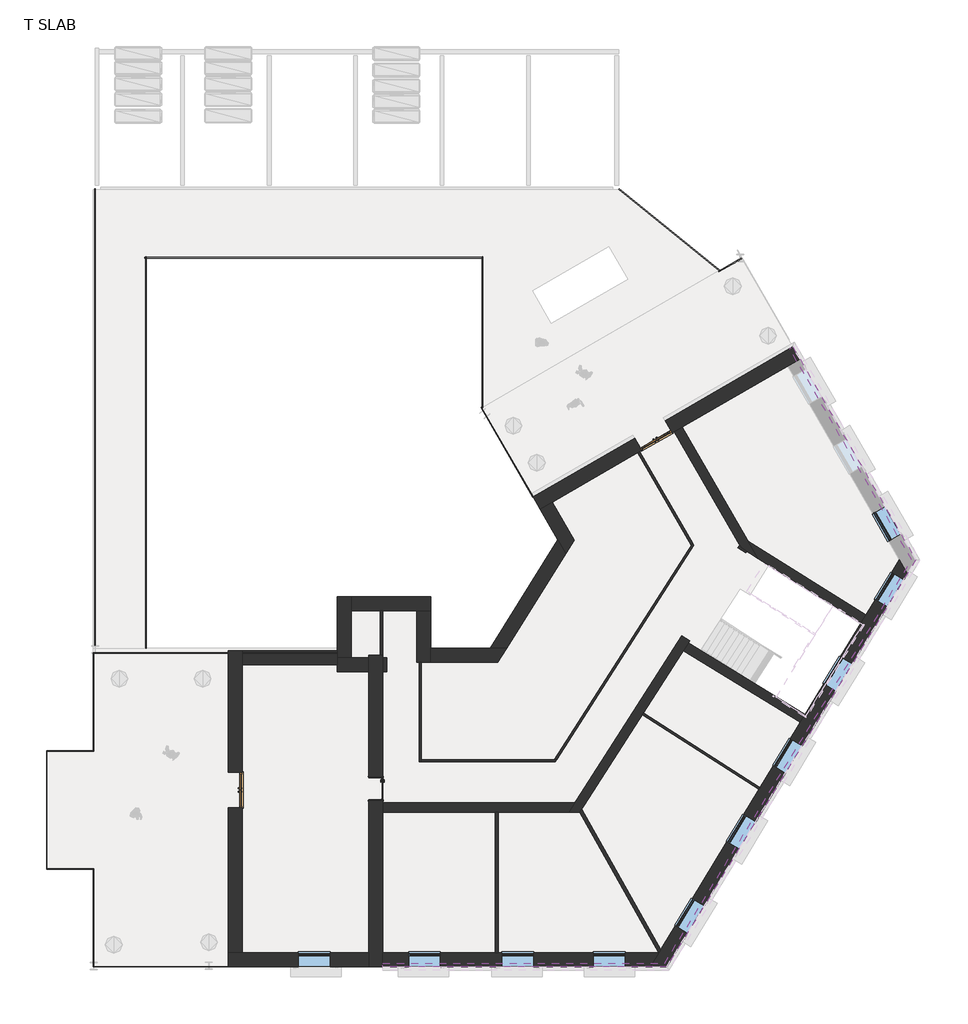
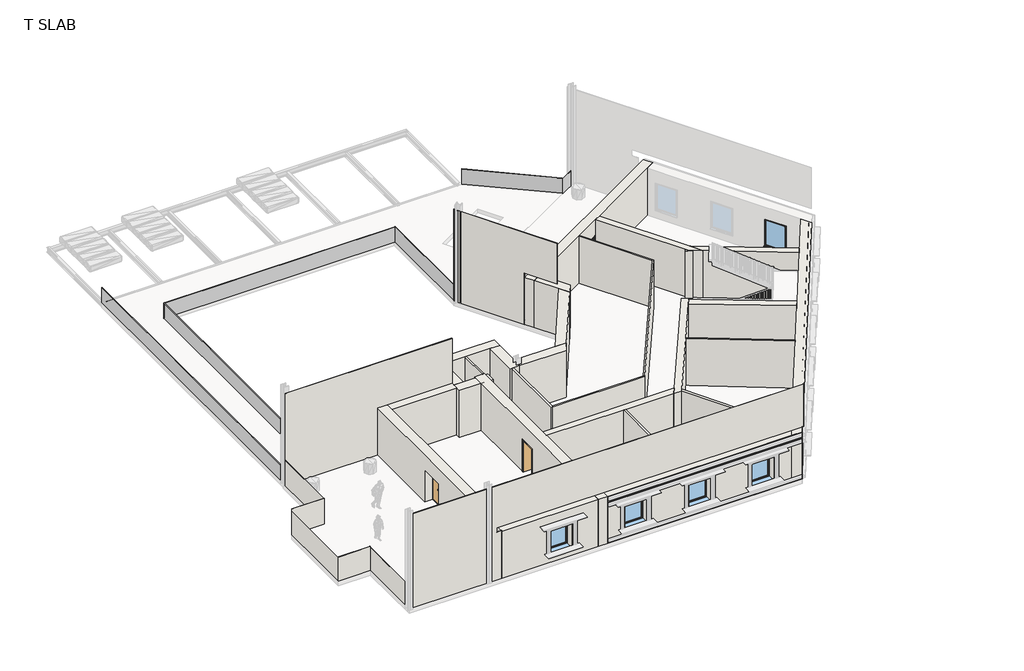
# One storey, part 1 of 3: 35 walls, 10 windows, 6 plates, 3 doors, 2 proxies.
"""IFC4 building model written with IfcOpenShell, lengths in millimetres."""

from ifc_helpers import new_model, si_unit, frame, origin, place, context, project, spatial, polyline, outline, extrude, faceted_brep, transform, mapped, element, save
from components import doors_extdbl_flush_1510x2110mm_71f47a27, doors_intsgl_1010x2110mm_08e46b23, system_panel_glazed_cf5a1381, system_panel_glazed_b8300c30, system_panel_glazed_0d75d7f1, system_panel_glazed_4365cd2d, system_panel_glazed_eda290e2, system_panel_glazed_d710f7e0, windows_sgl_plain_1360x1210mm_ccfeedc9

model = new_model("IFC4")

# Units and contexts
model_context = context("Model", 3, world=origin())
ifc_project = project(units=[si_unit("LENGTHUNIT", "METRE", prefix="MILLI")], contexts=[model_context])

# Site, building, storey
site = spatial("IfcSite", under=ifc_project)
building = spatial("IfcBuilding", under=site)
storey = spatial("IfcBuildingStorey", under=building, Name="T SLAB", Elevation=11500.0)

# Proxies
placement = place(None, origin())
element("IfcBuildingElementProxy", 1, Name="Reveal", ObjectType="Reveal", at=placement, inside=storey, context=model_context, shape_type="SweptSolid", body=[
    extrude(outline(polyline([(21490.4438673, 13358.5838782), (21667.737182, 13356.3028492), (11036.4091885, -4009.9711746), (10951.0160716, -3857.5711746), (21490.4438673, 13358.5838782)])), frame((0.0, 0.0, 11500.0), z_axis=(0.0, 0.0, 1.0), x_axis=(1.0, 0.0, 0.0)), (0.0, 0.0, 1.0), 152.4),
    extrude(outline(polyline([(16285.17951, 22374.3662118), (16417.1617815, 22450.5662118), (21667.737182, 13356.3028492), (21490.4438673, 13358.5838782), (16285.17951, 22374.3662118)])), frame((0.0, 0.0, 11500.0), z_axis=(0.0, 0.0, 1.0), x_axis=(1.0, 0.0, 0.0)), (0.0, 0.0, 1.0), 152.4),
    extrude(outline(polyline([(10951.0160716, -3857.5711746), (11036.4091885, -4009.9711746), (-1076.9484639, -4009.9711746), (-1076.9484639, -3857.5711746), (10951.0160716, -3857.5711746)])), frame((0.0, 0.0, 11500.0), z_axis=(0.0, 0.0, 1.0), x_axis=(1.0, 0.0, 0.0)), (0.0, 0.0, 1.0), 152.4),
])
element("IfcBuildingElementProxy", 2, Name="Reveal", ObjectType="Reveal", at=placement, inside=storey, context=model_context, shape_type="SweptSolid", body=[
    extrude(outline(polyline([(10951.0160716, -3857.5711746), (11036.4091885, -4009.9711746), (-1076.9484639, -4009.9711746), (-1076.9484639, -3857.5711746), (10951.0160716, -3857.5711746)])), frame((0.0, 0.0, 14200.0), z_axis=(0.0, 0.0, 1.0), x_axis=(1.0, 0.0, 0.0)), (0.0, 0.0, 1.0), 152.4),
    extrude(outline(polyline([(21490.4438673, 13358.5838782), (21667.737182, 13356.3028492), (11036.4091885, -4009.9711746), (10951.0160716, -3857.5711746), (21490.4438673, 13358.5838782)])), frame((0.0, 0.0, 14200.0), z_axis=(0.0, 0.0, 1.0), x_axis=(1.0, 0.0, 0.0)), (0.0, 0.0, 1.0), 152.4),
    extrude(outline(polyline([(16285.17951, 22374.3662118), (16417.1617815, 22450.5662118), (21667.737182, 13356.3028492), (21490.4438673, 13358.5838782), (16285.17951, 22374.3662118)])), frame((0.0, 0.0, 14200.0), z_axis=(0.0, 0.0, 1.0), x_axis=(1.0, 0.0, 0.0)), (0.0, 0.0, 1.0), 152.4),
])

# Doors
doors_extdbl_flush_1510x2110mm_shape = doors_extdbl_flush_1510x2110mm_71f47a27(model_context)
element("IfcDoor", 3, ObjectType="Doors_ExtDbl_Flush : 1510x2110mm", at=placement, inside=storey, context=model_context, shape_type="MappedRepresentation", body=[
    mapped(doors_extdbl_flush_1510x2110mm_shape, transform((-7376.9484639, 3535.0288254, 11500.0), x_axis=(0.0, -1.0, 0.0), y_axis=(1.0, 0.0, 0.0), z_axis=(0.0, 0.0, 1.0))),
])
element("IfcDoor", 4, ObjectType="Doors_ExtDbl_Flush : 1510x2110mm", at=placement, inside=storey, context=model_context, shape_type="MappedRepresentation", body=[
    mapped(doors_extdbl_flush_1510x2110mm_shape, transform((10465.4248506, 18667.9191311, 11500.0), x_axis=(-0.8660254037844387, -0.49999999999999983, 0.0), y_axis=(0.49999999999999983, -0.8660254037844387, 0.0), z_axis=(0.0, 0.0, 1.0))),
])
doors_intsgl_1010x2110mm_shape = doors_intsgl_1010x2110mm_08e46b23(model_context)
element("IfcDoor", 5, ObjectType="Doors_IntSgl : 1010x2110mm", at=placement, inside=storey, context=model_context, shape_type="MappedRepresentation", body=[
    mapped(doors_intsgl_1010x2110mm_shape, transform((-1376.9484639, 3595.0288254, 11500.0), x_axis=(0.0, -1.0, 0.0), y_axis=(1.0, 0.0, 0.0), z_axis=(0.0, 0.0, 1.0))),
])

# Plates
system_panel_glazed_shape = system_panel_glazed_cf5a1381(model_context)
element("IfcPlate", 6, ObjectType="System Panel : Glazed", at=placement, inside=storey, context=model_context, shape_type="MappedRepresentation", body=[
    mapped(system_panel_glazed_shape, transform((3132.0366131, 23076.6230883, 11500.0), x_axis=(0.0, -1.0, 0.0), y_axis=(1.0, 0.0, 0.0), z_axis=(0.0, 0.0, 1.0))),
])
system_panel_glazed_2_shape = system_panel_glazed_b8300c30(model_context)
element("IfcPlate", 7, ObjectType="System Panel : Glazed", at=placement, inside=storey, context=model_context, shape_type="MappedRepresentation", body=[
    mapped(system_panel_glazed_2_shape, transform((-4049.9559254, 26292.1681881, 11500.0), x_axis=(-1.0, 0.0, 0.0), y_axis=(0.0, -1.0, 0.0), z_axis=(0.0, 0.0, 1.0))),
])
system_panel_glazed_3_shape = system_panel_glazed_0d75d7f1(model_context)
element("IfcPlate", 8, ObjectType="System Panel : Glazed", at=placement, inside=storey, context=model_context, shape_type="MappedRepresentation", body=[
    mapped(system_panel_glazed_3_shape, transform((-11231.9484639, 17941.0985067, 11500.0), x_axis=(0.0, -1.0, 0.0), y_axis=(1.0, 0.0, 0.0), z_axis=(0.0, 0.0, 1.0))),
])
system_panel_glazed_4_shape = system_panel_glazed_4365cd2d(model_context)
element("IfcPlate", 9, ObjectType="System Panel : Glazed", at=placement, inside=storey, context=model_context, shape_type="MappedRepresentation", body=[
    mapped(system_panel_glazed_4_shape, transform((-13331.6874983, 19460.0288254, 11500.0), x_axis=(0.0, 1.0, 0.0), y_axis=(-1.0, 0.0, 0.0), z_axis=(0.0, 0.0, 1.0))),
])
system_panel_glazed_5_shape = system_panel_glazed_eda290e2(model_context)
element("IfcPlate", 10, ObjectType="System Panel : Glazed", at=placement, inside=storey, context=model_context, shape_type="MappedRepresentation", body=[
    mapped(system_panel_glazed_5_shape, transform((11104.0604049, 27426.4199896, 11500.0), x_axis=(0.7768471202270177, -0.6296892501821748, 0.0), y_axis=(0.6296892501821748, 0.7768471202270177, 0.0), z_axis=(0.0, 0.0, 1.0))),
])
system_panel_glazed_6_shape = system_panel_glazed_d710f7e0(model_context)
element("IfcPlate", 11, ObjectType="System Panel : Glazed", at=placement, inside=storey, context=model_context, shape_type="MappedRepresentation", body=[
    mapped(system_panel_glazed_6_shape, transform((13732.3956065, 25981.1981068, 11500.0), x_axis=(-0.8660254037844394, -0.4999999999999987, 0.0), y_axis=(0.4999999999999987, -0.8660254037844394, 0.0), z_axis=(0.0, 0.0, 1.0))),
])

# Walls
element("IfcWall", 12, ObjectType="Wall-Partn_12P-70MStd-12P", at=placement, inside=storey, context=model_context, shape_type="SweptSolid", body=[
    extrude(outline(polyline([(10041.4057042, 6826.6614941), (15018.6892809, 3644.2551292), (14969.0788662, 3563.216518), (9990.2304607, 6746.6234129), (10041.4057042, 6826.6614941)])), frame((0.0, 0.0, 11500.0), z_axis=(0.0, 0.0, 1.0), x_axis=(1.0, 0.0, 0.0)), (0.0, 0.0, 1.0), 3100.0),
])
element("IfcWall", 13, ObjectType="Wall-Partn_12P-70MStd-12P", at=placement, inside=storey, context=model_context, shape_type="SweptSolid", body=[
    extrude(outline(polyline([(-1187.280878, 9290.0288254), (-1187.280878, 11190.0288254), (-1092.280878, 11190.0288254), (-1092.280878, 9290.0288254), (-1187.280878, 9290.0288254)])), frame((0.0, 0.0, 11500.0), z_axis=(0.0, 0.0, 1.0), x_axis=(1.0, 0.0, 0.0)), (0.0, 0.0, 1.0), 3100.0),
])
element("IfcWall", 14, ObjectType="Wall-Partn_12P-70MStd-12P", at=placement, inside=storey, context=model_context, shape_type="Brep", body=[
    faceted_brep([(470.5515361, 8990.0288254, 11500.0), (470.5515361, 4742.5288254, 11500.0), (470.5515361, 4742.5288254, 14600.0), (470.5515361, 8990.0288254, 14600.0), (565.5515361, 8990.0288254, 11500.0), (565.5515361, 8990.0288254, 14600.0), (565.5515361, 4837.5288254, 14600.0), (565.5515361, 4742.5288254, 14600.0), (565.5515361, 4742.5288254, 11500.0), (565.5515361, 4837.5288254, 11500.0)], [[[0, 1, 2, 3]], [[4, 5, 6, 7, 8, 9]], [[1, 0, 4, 9, 8]], [[0, 3, 5, 4]], [[2, 1, 8, 7]], [[3, 2, 7, 6, 5]]]),
])
element("IfcWall", 15, ObjectType="Wall-Partn_12P-70MStd-12P", at=placement, inside=storey, context=model_context, shape_type="Brep", body=[
    faceted_brep([(565.5515361, 4742.5288254, 11500.0), (6280.1214861, 4742.5288254, 11500.0), (6280.1214861, 4742.5288254, 14600.0), (565.5515361, 4742.5288254, 14600.0), (565.5515361, 4837.5288254, 11500.0), (565.5515361, 4837.5288254, 14600.0), (6228.1043488, 4837.5288254, 14600.0), (6340.8631738, 4837.5288254, 14600.0), (6340.8631738, 4837.5288254, 11500.0), (6228.1043488, 4837.5288254, 11500.0)], [[[0, 1, 2, 3]], [[4, 5, 6, 7, 8, 9]], [[1, 0, 4, 9, 8]], [[0, 3, 5, 4]], [[2, 1, 8, 7]], [[3, 2, 7, 6, 5]]]),
])
element("IfcWall", 16, ObjectType="Wall-Partn_12P-70MStd-12P", at=placement, inside=storey, context=model_context, shape_type="Brep", body=[
    faceted_brep([(6340.8631738, 4837.5288254, 11500.0), (12191.443507, 13987.8365071, 11500.0), (12191.443507, 13987.8365071, 14600.0), (6340.8631738, 4837.5288254, 14600.0), (6228.1043488, 4837.5288254, 11500.0), (6228.1043488, 4837.5288254, 14600.0), (12080.2938847, 13990.3533002, 14600.0), (12137.938627, 14080.5096776, 14600.0), (12137.938627, 14080.5096776, 11500.0), (12080.2938847, 13990.3533002, 11500.0)], [[[0, 1, 2, 3]], [[4, 5, 6, 7, 8, 9]], [[1, 0, 4, 9, 8]], [[2, 1, 8, 7]], [[0, 3, 5, 4]], [[3, 2, 7, 6, 5]]]),
])
element("IfcWall", 17, ObjectType="Wall-Partn_12P-70MStd-12P", at=placement, inside=storey, context=model_context, shape_type="SweptSolid", body=[
    extrude(outline(polyline([(9883.4036208, 17985.4788559), (12137.938627, 14080.5096776), (12080.2938847, 13990.3533002), (9801.1312074, 17937.9788559), (9883.4036208, 17985.4788559)])), frame((0.0, 0.0, 11500.0), z_axis=(0.0, 0.0, 1.0), x_axis=(1.0, 0.0, 0.0)), (0.0, 0.0, 1.0), 3100.0),
])
element("IfcWall", 18, ObjectType="Wall-Partn_12P-70MStd-12P 2", at=placement, inside=storey, context=model_context, shape_type="Brep", body=[
    faceted_brep([(11146.8645795, -3994.9711746, 14928.4469552), (-7970.6571402, -3994.9711746, 14928.4469552), (-7970.6571402, -3994.9711746, 14648.4469552), (-7676.9484639, -3994.9711746, 14648.4469552), (-7676.9484639, -3994.9711746, 11500.0), (-13416.6874983, -3994.9711746, 11500.0), (-13431.6874983, -3994.9711746, 11500.0), (-13431.6874983, -3994.9711746, 13007.7183075), (-13431.6874983, -3994.9711746, 17706.8), (11129.3428598, -3994.9711746, 17706.8), (11146.8645795, -3994.9711746, 17706.8), (11146.8645795, -3994.9711746, 15000.0), (11137.8086058, -4009.9711746, 14928.4469552), (11137.8086058, -4009.9711746, 17706.8), (-13431.6874983, -4009.9711746, 17706.8), (-13431.6874983, -4009.9711746, 11500.0), (-7676.9484639, -4009.9711746, 11500.0), (-7676.9484639, -4009.9711746, 14600.0), (-7676.9484639, -4009.9711746, 14648.4469552), (-7970.6571402, -4009.9711746, 14648.4469552), (-7970.6571402, -4009.9711746, 14928.4469552)], [[[0, 1, 2, 3, 4, 5, 6, 7, 8, 9, 10, 11]], [[12, 13, 14, 15, 16, 17, 18, 19, 20]], [[8, 7, 6, 15, 14]], [[6, 5, 4, 16, 15]], [[10, 9, 8, 14, 13]], [[1, 0, 12, 20]], [[2, 1, 20, 19]], [[3, 2, 19, 18]], [[4, 3, 18, 17, 16]], [[0, 11, 10, 13, 12]]]),
])
element("IfcWall", 19, ObjectType="Wall-Partn_12P-70MStd-12P 2", at=placement, inside=storey, context=model_context, shape_type="Brep", body=[
    faceted_brep([(-13416.6874983, -3994.9711746, 11500.0), (-13416.6874983, 180.5548037, 11500.0), (-13416.6874983, 180.5548037, 13007.7183075), (-13416.6874983, -3994.9711746, 13007.7183075), (-13431.6874983, -3994.9711746, 11500.0), (-13431.6874983, -3994.9711746, 13007.7183075), (-13431.6874983, 180.5548037, 13007.7183075), (-13431.6874983, 180.5548037, 11500.0), (-13431.6874983, 165.5548037, 11500.0)], [[[0, 1, 2, 3]], [[4, 5, 6, 7, 8]], [[1, 0, 4, 8, 7]], [[3, 2, 6, 5]], [[0, 3, 5, 4]], [[2, 1, 7, 6]]]),
])
element("IfcWall", 20, ObjectType="Wall-Partn_12P-70MStd-12P 2", at=placement, inside=storey, context=model_context, shape_type="Brep", body=[
    faceted_brep([(-13431.6874983, 180.5548037, 11500.0), (-15416.6874983, 180.5548037, 11500.0), (-15431.6874983, 180.5548037, 11500.0), (-15431.6874983, 180.5548037, 13028.4738073), (-15431.6874983, 180.5548037, 13084.9744432), (-13431.6874983, 180.5548037, 13084.9744432), (-13431.6874983, 180.5548037, 13007.7183075), (-13431.6874983, 165.5548037, 11500.0), (-13431.6874983, 165.5548037, 13084.9744432), (-15431.6874983, 165.5548037, 13084.9744432), (-15431.6874983, 165.5548037, 11500.0)], [[[0, 1, 2, 3, 4, 5, 6]], [[7, 8, 9, 10]], [[2, 1, 0, 7, 10]], [[5, 4, 9, 8]], [[0, 6, 5, 8, 7]], [[4, 3, 2, 10, 9]]]),
])
element("IfcWall", 21, ObjectType="Wall-Partn_12P-70MStd-12P 2", at=placement, inside=storey, context=model_context, shape_type="Brep", body=[
    faceted_brep([(-15416.6874983, 180.5548037, 11500.0), (-15416.6874983, 5190.5548037, 11500.0), (-15416.6874983, 5205.5548037, 11500.0), (-15416.6874983, 5205.5548037, 13028.4738073), (-15416.6874983, 180.5548037, 13028.4738073), (-15431.6874983, 180.5548037, 11500.0), (-15431.6874983, 180.5548037, 13028.4738073), (-15431.6874983, 5205.5548037, 13028.4738073), (-15431.6874983, 5205.5548037, 11500.0)], [[[0, 1, 2, 3, 4]], [[5, 6, 7, 8]], [[2, 1, 0, 5, 8]], [[4, 3, 7, 6]], [[0, 4, 6, 5]], [[3, 2, 8, 7]]]),
])
element("IfcWall", 22, ObjectType="Wall-Partn_12P-70MStd-12P 2", at=placement, inside=storey, context=model_context, shape_type="Brep", body=[
    faceted_brep([(-15416.6874983, 5190.5548037, 11500.0), (-13416.6874983, 5190.5548037, 11500.0), (-13416.6874983, 5190.5548037, 13191.4676723), (-15416.6874983, 5190.5548037, 13191.4676723), (-15416.6874983, 5205.5548037, 11500.0), (-15416.6874983, 5205.5548037, 13028.4738073), (-15416.6874983, 5205.5548037, 13191.4676723), (-13416.6874983, 5205.5548037, 13191.4676723), (-13416.6874983, 5205.5548037, 13187.9113128), (-13416.6874983, 5205.5548037, 11500.0), (-13431.6874983, 5205.5548037, 11500.0)], [[[0, 1, 2, 3]], [[4, 5, 6, 7, 8, 9, 10]], [[1, 0, 4, 10, 9]], [[3, 2, 7, 6]], [[0, 3, 6, 5, 4]], [[2, 1, 9, 8, 7]]]),
])
element("IfcWall", 23, ObjectType="Wall-Partn_12P-70MStd-12P 2", at=placement, inside=storey, context=model_context, shape_type="Brep", body=[
    faceted_brep([(-13416.6874983, 5205.5548037, 11500.0), (-13416.6874983, 9375.0288254, 11500.0), (-13416.6874983, 9390.0288254, 11500.0), (-13416.6874983, 9390.0288254, 13187.9113128), (-13416.6874983, 5205.5548037, 13187.9113128), (-13431.6874983, 5205.5548037, 11500.0), (-13431.6874983, 5205.5548037, 13187.9113128), (-13431.6874983, 9390.0288254, 13187.9113128), (-13431.6874983, 9390.0288254, 11500.0)], [[[0, 1, 2, 3, 4]], [[5, 6, 7, 8]], [[2, 1, 0, 5, 8]], [[4, 3, 7, 6]], [[0, 4, 6, 5]], [[3, 2, 8, 7]]]),
])
element("IfcWall", 24, ObjectType="Wall-Partn_12P-70MStd-12P 2", at=placement, inside=storey, context=model_context, shape_type="Brep", body=[
    faceted_brep([(-13416.6874983, 9375.0288254, 11500.0), (-3031.9484639, 9375.0288254, 11500.0), (-3031.9484639, 9375.0288254, 17560.0), (-13416.6874983, 9375.0288254, 17560.0), (-13416.6874983, 9390.0288254, 11500.0), (-13416.6874983, 9390.0288254, 13187.9113128), (-13416.6874983, 9390.0288254, 17560.0), (-3031.9484639, 9390.0288254, 17560.0), (-3031.9484639, 9390.0288254, 11500.0)], [[[0, 1, 2, 3]], [[4, 5, 6, 7, 8]], [[1, 0, 4, 8]], [[0, 3, 6, 5, 4]], [[2, 1, 8, 7]], [[3, 2, 7, 6]]]),
])
element("IfcWall", 25, ObjectType="Wall-Partn_12P-70MStd-12P 2", at=placement, inside=storey, context=model_context, shape_type="Brep", body=[
    faceted_brep([(3115.296232, 19860.073179, 11500.0), (5319.046232, 16043.0662118, 11500.0), (5319.046232, 16043.0662118, 14880.0), (6346.1372879, 14264.092319, 14880.0), (6346.1372879, 14264.092319, 15000.0), (6346.1372879, 14264.092319, 17560.0), (6337.5621324, 14278.944924, 17560.0), (3251.4268808, 19624.2879788, 17560.0), (3115.296232, 19860.073179, 17560.0), (3128.2866131, 19867.573179, 11500.0), (3128.2866131, 19867.573179, 17560.0), (3264.2408356, 19632.0935581, 17560.0), (6354.9703511, 14278.7930048, 17560.0), (6354.9703511, 14278.7930048, 14880.0), (5332.0366131, 16050.5662118, 14880.0), (5332.0366131, 16050.5662118, 11500.0)], [[[0, 1, 2, 3, 4, 5, 6, 7, 8]], [[9, 10, 11, 12, 13, 14, 15]], [[1, 0, 9, 15]], [[0, 8, 10, 9]], [[2, 1, 15, 14]], [[3, 2, 14, 13]], [[5, 4, 3, 13, 12]], [[8, 7, 11, 10]], [[7, 6, 5, 12, 11]]]),
])
element("IfcWall", 26, ObjectType="Wall-Int_12P-100Blk-12P", at=placement, inside=storey, context=model_context, shape_type="SweptSolid", body=[
    extrude(outline(polyline([(3848.0515361, 2590.0288254), (3848.0515361, -3409.9711746), (3723.0515361, -3409.9711746), (3723.0515361, 2590.0288254), (3848.0515361, 2590.0288254)])), frame((0.0, 0.0, 11500.0), z_axis=(0.0, 0.0, 1.0), x_axis=(1.0, 0.0, 0.0)), (0.0, 0.0, 1.0), 3100.0),
])
element("IfcWall", 27, ObjectType="Wall-Int_12P-100Blk-12P", at=placement, inside=storey, context=model_context, shape_type="SweptSolid", body=[
    extrude(outline(polyline([(7408.8957218, 2709.4158634), (10774.9967974, -3287.8164413), (10700.2158148, -3409.9711746), (7332.5612989, 2590.0288254), (7408.8957218, 2709.4158634)])), frame((0.0, 0.0, 11500.0), z_axis=(0.0, 0.0, 1.0), x_axis=(1.0, 0.0, 0.0)), (0.0, 0.0, 1.0), 3100.0),
])
element("IfcWall", 28, ObjectType="ug wall", at=placement, inside=storey, context=model_context, shape_type="SweptSolid", body=[
    extrude(outline(polyline([(9290.0288254, 14600.0), (9290.0288254, 11500.0), (4100.0288254, 11500.0), (4100.0288254, 13610.0), (3090.0288254, 13610.0), (3090.0288254, 11500.0), (-4009.9711746, 11500.0), (-4009.9711746, 14600.0), (9290.0288254, 14600.0)])), frame((-1676.9484639, 0.0, 0.0), z_axis=(1.0, 0.0, 0.0), x_axis=(0.0, 1.0, 0.0)), (0.0, 0.0, 1.0), 600.0),
])
element("IfcWall", 29, ObjectType="ug wall", at=placement, inside=storey, context=model_context, shape_type="Brep", body=[
    faceted_brep([(-911.9484639, 9190.0288254, 11500.0), (-2431.9484639, 9190.0288254, 11500.0), (-3031.9484639, 9190.0288254, 11500.0), (-3031.9484639, 9190.0288254, 14600.0), (-2431.9484639, 9190.0288254, 14600.0), (-911.9484639, 9190.0288254, 14600.0), (-911.9484639, 8590.0288254, 11500.0), (-911.9484639, 8590.0288254, 14600.0), (-3031.9484639, 8590.0288254, 14600.0), (-3031.9484639, 8590.0288254, 11500.0)], [[[0, 1, 2, 3, 4, 5]], [[6, 7, 8, 9]], [[2, 1, 0, 6, 9]], [[0, 5, 7, 6]], [[3, 2, 9, 8]], [[5, 4, 3, 8, 7]]]),
])
element("IfcWall", 30, ObjectType="ug wall", at=placement, inside=storey, context=model_context, shape_type="Brep", body=[
    faceted_brep([(-2431.9484639, 9190.0288254, 11500.0), (-2431.9484639, 11190.0288254, 11500.0), (-2431.9484639, 11790.0288254, 11500.0), (-2431.9484639, 11790.0288254, 14600.0), (-2431.9484639, 11190.0288254, 14600.0), (-2431.9484639, 9190.0288254, 14600.0), (-3031.9484639, 9190.0288254, 11500.0), (-3031.9484639, 9190.0288254, 14600.0), (-3031.9484639, 11790.0288254, 14600.0), (-3031.9484639, 11790.0288254, 11500.0)], [[[0, 1, 2, 3, 4, 5]], [[6, 7, 8, 9]], [[2, 1, 0, 6, 9]], [[0, 5, 7, 6]], [[3, 2, 9, 8]], [[5, 4, 3, 8, 7]]]),
])
element("IfcWall", 31, ObjectType="ug wall", at=placement, inside=storey, context=model_context, shape_type="Brep", body=[
    faceted_brep([(-2431.9484639, 11190.0288254, 11500.0), (368.0515361, 11190.0288254, 11500.0), (968.0515361, 11190.0288254, 11500.0), (968.0515361, 11190.0288254, 14600.0), (368.0515361, 11190.0288254, 14600.0), (-2431.9484639, 11190.0288254, 14600.0), (-2431.9484639, 11790.0288254, 11500.0), (-2431.9484639, 11790.0288254, 14600.0), (968.0515361, 11790.0288254, 14600.0), (968.0515361, 11790.0288254, 11500.0)], [[[0, 1, 2, 3, 4, 5]], [[6, 7, 8, 9]], [[2, 1, 0, 6, 9]], [[0, 5, 7, 6]], [[3, 2, 9, 8]], [[5, 4, 3, 8, 7]]]),
])
element("IfcWall", 32, ObjectType="ug wall", at=placement, inside=storey, context=model_context, shape_type="Brep", body=[
    faceted_brep([(368.0515361, 11190.0288254, 11500.0), (368.0515361, 8990.0288254, 11500.0), (368.0515361, 8990.0288254, 14600.0), (368.0515361, 11190.0288254, 14600.0), (968.0515361, 11190.0288254, 11500.0), (968.0515361, 11190.0288254, 14600.0), (968.0515361, 9590.0288254, 14600.0), (968.0515361, 8990.0288254, 14600.0), (968.0515361, 8990.0288254, 11500.0), (968.0515361, 9590.0288254, 11500.0)], [[[0, 1, 2, 3]], [[4, 5, 6, 7, 8, 9]], [[1, 0, 4, 9, 8]], [[0, 3, 5, 4]], [[2, 1, 8, 7]], [[3, 2, 7, 6, 5]]]),
])
element("IfcWall", 33, ObjectType="ug wall", at=placement, inside=storey, context=model_context, shape_type="Brep", body=[
    faceted_brep([(968.0515361, 8990.0288254, 11500.0), (3834.6052171, 8990.0288254, 11500.0), (3834.6052171, 8990.0288254, 14600.0), (968.0515361, 8990.0288254, 14600.0), (968.0515361, 9590.0288254, 11500.0), (968.0515361, 9590.0288254, 14600.0), (3502.0197862, 9590.0288254, 14600.0), (4209.5268283, 9590.0288254, 14600.0), (4209.5268283, 9590.0288254, 11500.0), (3502.0197862, 9590.0288254, 11500.0)], [[[0, 1, 2, 3]], [[4, 5, 6, 7, 8, 9]], [[1, 0, 4, 9, 8]], [[0, 3, 5, 4]], [[2, 1, 8, 7]], [[3, 2, 7, 6, 5]]]),
])
element("IfcWall", 34, ObjectType="ug wall", at=placement, inside=storey, context=model_context, shape_type="Brep", body=[
    faceted_brep([(5332.0366131, 16050.5662118, 14600.0), (16417.1617815, 22450.5662118, 14600.0), (16417.1617815, 22450.5662118, 14552.4), (16417.1617815, 22450.5662118, 14400.0), (16417.1617815, 22450.5662118, 14352.4), (16285.17951, 22374.3662118, 14352.4), (16285.17951, 22374.3662118, 14200.0), (16417.1617815, 22450.5662118, 14200.0), (16417.1617815, 22450.5662118, 14152.4), (16417.1617815, 22450.5662118, 14000.0), (16417.1617815, 22450.5662118, 11804.8), (16417.1617815, 22450.5662118, 11652.4), (16285.17951, 22374.3662118, 11652.4), (16285.17951, 22374.3662118, 11500.0), (10969.2740305, 19305.2267522, 11500.0), (10969.2740305, 19305.2267522, 11652.4), (10969.2740305, 19305.2267522, 11804.8), (10969.2740305, 19305.2267522, 13610.0), (9661.5756708, 18550.2267522, 13610.0), (9661.5756708, 18550.2267522, 11804.8), (9661.5756708, 18550.2267522, 11652.4), (9661.5756708, 18550.2267522, 11500.0), (5332.0366131, 16050.5662118, 11500.0), (5332.0366131, 16050.5662118, 11652.4), (5332.0366131, 16050.5662118, 11804.8), (5632.0366131, 15530.9509695, 14600.0), (5632.0366131, 15530.9509695, 11500.0), (6151.6518554, 15830.9509695, 11500.0), (9961.5756708, 18030.61151, 11500.0), (9961.5756708, 18030.61151, 13610.0), (11269.2740305, 18785.61151, 13610.0), (11269.2740305, 18785.61151, 11500.0), (11347.4460805, 18830.7441641, 11500.0), (11693.856242, 19030.7441641, 11500.0), (16197.5465393, 21630.9509695, 11500.0), (16585.17951, 21854.7509695, 11500.0), (16585.17951, 21854.7509695, 11652.4), (16717.1617815, 21930.9509695, 11652.4), (16717.1617815, 21930.9509695, 11804.8), (16717.1617815, 21930.9509695, 14000.0), (16717.1617815, 21930.9509695, 14152.4), (16717.1617815, 21930.9509695, 14200.0), (16585.17951, 21854.7509695, 14200.0), (16585.17951, 21854.7509695, 14352.4), (16717.1617815, 21930.9509695, 14352.4), (16717.1617815, 21930.9509695, 14400.0), (16717.1617815, 21930.9509695, 14552.4), (16717.1617815, 21930.9509695, 14600.0), (16197.5465393, 21630.9509695, 14600.0), (11693.856242, 19030.7441641, 14600.0), (11347.4460805, 18830.7441641, 14600.0), (6151.6518554, 15830.9509695, 14600.0)], [[[0, 1, 2, 3, 4, 5, 6, 7, 8, 9, 10, 11, 12, 13, 14, 15, 16, 17, 18, 19, 20, 21, 22, 23, 24]], [[25, 26, 27, 28, 29, 30, 31, 32, 33, 34, 35, 36, 37, 38, 39, 40, 41, 42, 43, 44, 45, 46, 47, 48, 49, 50, 51]], [[26, 22, 21, 28, 27]], [[13, 35, 34, 33, 32, 31, 14]], [[22, 26, 25, 0, 24, 23]], [[1, 47, 46, 45, 44, 4, 3, 2]], [[37, 11, 10, 9, 8, 7, 41, 40, 39, 38]], [[1, 0, 25, 51, 50, 49, 48, 47]], [[12, 36, 35, 13]], [[36, 12, 11, 37]], [[6, 42, 41, 7]], [[42, 6, 5, 43]], [[43, 5, 4, 44]], [[31, 30, 17, 16, 15, 14]], [[29, 28, 21, 20, 19, 18]], [[30, 29, 18, 17]]]),
])
element("IfcWall", 35, ObjectType="ug wall", at=placement, inside=storey, context=model_context, shape_type="Brep", body=[
    faceted_brep([(5632.0366131, 15530.9509695, 11500.0), (6391.9075202, 14214.8159512, 11500.0), (6731.6785354, 13626.3152899, 11500.0), (6731.6785354, 13626.3152899, 14600.0), (6391.9075202, 14214.8159512, 14600.0), (5632.0366131, 15530.9509695, 14600.0), (6151.6518554, 15830.9509695, 11500.0), (6151.6518554, 15830.9509695, 14600.0), (7091.7809482, 14202.5996151, 14600.0), (7091.7809482, 14202.5996151, 11500.0)], [[[0, 1, 2, 3, 4, 5]], [[6, 7, 8, 9]], [[2, 1, 0, 6, 9]], [[0, 5, 7, 6]], [[3, 2, 9, 8]], [[5, 4, 3, 8, 7]]]),
])
element("IfcWall", 36, ObjectType="ug wall", at=placement, inside=storey, context=model_context, shape_type="SweptSolid", body=[
    extrude(outline(polyline([(3502.0197862, 9590.0288254), (6391.9075202, 14214.8159512), (6731.6785354, 13626.3152899), (4209.5268283, 9590.0288254), (3502.0197862, 9590.0288254)])), frame((0.0, 0.0, 11500.0), z_axis=(0.0, 0.0, 1.0), x_axis=(1.0, 0.0, 0.0)), (0.0, 0.0, 1.0), 3100.0),
])
element("IfcWall", 37, ObjectType="ug wall", at=placement, inside=storey, context=model_context, shape_type="Brep", body=[
    faceted_brep([(20969.7320058, 13365.2832783, 11500.0), (16934.319402, 6773.4368863, 11500.0), (16725.4733567, 6432.2868762, 11500.0), (15018.6892809, 3644.2551292, 11500.0), (14969.0788662, 3563.216518, 11500.0), (10774.9967974, -3287.8164413, 11500.0), (10700.2158148, -3409.9711746, 11500.0), (10426.202955, -3857.5711746, 11500.0), (10426.202955, -3857.5711746, 11652.4), (10332.9063513, -4009.9711746, 11652.4), (10332.9063513, -4009.9711746, 11804.8), (10332.9063513, -4009.9711746, 14000.0), (10332.9063513, -4009.9711746, 14152.4), (10332.9063513, -4009.9711746, 14200.0), (10426.202955, -3857.5711746, 14200.0), (10426.202955, -3857.5711746, 14352.4), (10332.9063513, -4009.9711746, 14352.4), (10332.9063513, -4009.9711746, 14400.0), (10332.9063513, -4009.9711746, 14552.4), (10332.9063513, -4009.9711746, 14600.0), (10700.2158148, -3409.9711746, 14600.0), (10774.9967974, -3287.8164413, 14600.0), (14969.0788662, 3563.216518, 14600.0), (15018.6892809, 3644.2551292, 14600.0), (16725.4733567, 6432.2868762, 14600.0), (16934.319402, 6773.4368863, 14600.0), (19323.1495631, 10675.5908975, 14600.0), (20969.7320058, 13365.2832783, 14600.0), (13605.8229965, 1336.3380874, 13800.0), (13605.8229965, 1336.3380874, 12000.0), (14315.8995506, 2496.2481215, 12000.0), (14315.8995506, 2496.2481215, 13800.0), (11407.7854581, -2254.1561793, 13800.0), (11407.7854581, -2254.1561793, 12000.0), (12117.8620121, -1094.2461451, 12000.0), (12117.8620121, -1094.2461451, 13800.0), (19928.4440394, 11664.3394101, 13800.0), (19928.4440394, 11664.3394101, 12000.0), (20638.5205935, 12824.2494443, 12000.0), (20638.5205935, 12824.2494443, 13800.0), (15589.860427, 4577.2631828, 13800.0), (15589.860427, 4577.2631828, 12000.0), (16299.9369811, 5737.1732169, 12000.0), (16299.9369811, 5737.1732169, 13800.0), (17730.5323916, 8074.0507858, 13800.0), (17730.5323916, 8074.0507858, 12000.0), (18440.6089456, 9233.9608199, 12000.0), (18440.6089456, 9233.9608199, 13800.0), (21311.1833586, 12773.8721871, 14600.0), (11036.4091885, -4009.9711746, 14600.0), (11036.4091885, -4009.9711746, 14552.4), (11036.4091885, -4009.9711746, 14400.0), (11036.4091885, -4009.9711746, 14352.4), (21311.1833586, 12773.8721871, 14352.4), (21311.1833586, 12773.8721871, 14400.0), (21311.1833586, 12773.8721871, 14552.4), (11036.4091885, -4009.9711746, 11652.4), (21311.1833586, 12773.8721871, 11652.4), (21311.1833586, 12773.8721871, 11804.8), (21311.1833586, 12773.8721871, 14000.0), (21311.1833586, 12773.8721871, 14152.4), (21311.1833586, 12773.8721871, 14200.0), (11036.4091885, -4009.9711746, 14200.0), (11036.4091885, -4009.9711746, 14152.4), (11036.4091885, -4009.9711746, 14000.0), (11036.4091885, -4009.9711746, 11804.8), (14117.5480116, 1023.0690194, 12000.0), (14117.5480116, 1023.0690194, 13800.0), (14827.6245657, 2182.9790535, 13800.0), (14827.6245657, 2182.9790535, 12000.0), (11919.5104731, -2567.4252473, 12000.0), (11919.5104731, -2567.4252473, 13800.0), (12629.5870272, -1407.5152131, 13800.0), (12629.5870272, -1407.5152131, 12000.0), (20440.1690545, 11351.0703421, 12000.0), (20440.1690545, 11351.0703421, 13800.0), (21150.2456086, 12510.9803763, 13800.0), (21150.2456086, 12510.9803763, 12000.0), (16101.5854421, 4263.9941148, 12000.0), (16101.5854421, 4263.9941148, 13800.0), (16811.6619962, 5423.904149, 13800.0), (16811.6619962, 5423.904149, 12000.0), (18242.2574066, 7760.7817178, 12000.0), (18242.2574066, 7760.7817178, 13800.0), (18952.3339607, 8920.6917519, 13800.0), (18952.3339607, 8920.6917519, 12000.0), (21224.454715, 12924.0906042, 11500.0), (10951.0160716, -3857.5711746, 11500.0), (10951.0160716, -3857.5711746, 11652.4), (21224.454715, 12924.0906042, 11652.4), (21224.454715, 12924.0906042, 14352.4), (21224.454715, 12924.0906042, 14200.0), (10951.0160716, -3857.5711746, 14200.0), (10951.0160716, -3857.5711746, 14352.4)], [[[0, 1, 2, 3, 4, 5, 6, 7, 8, 9, 10, 11, 12, 13, 14, 15, 16, 17, 18, 19, 20, 21, 22, 23, 24, 25, 26, 27], [28, 29, 30, 31], [32, 33, 34, 35], [36, 37, 38, 39], [40, 41, 42, 43], [44, 45, 46, 47]], [[48, 49, 50, 51, 52, 53, 54, 55]], [[56, 57, 58, 59, 60, 61, 62, 63, 64, 65], [66, 67, 68, 69], [70, 71, 72, 73], [74, 75, 76, 77], [78, 79, 80, 81], [82, 83, 84, 85]], [[7, 6, 5, 4, 3, 2, 1, 0, 86, 87]], [[49, 19, 18, 17, 16, 52, 51, 50]], [[9, 56, 65, 64, 63, 62, 13, 12, 11, 10]], [[88, 87, 86, 89]], [[87, 88, 8, 7]], [[8, 88, 89, 57, 56, 9]], [[0, 27, 48, 55, 54, 53, 90, 91, 61, 60, 59, 58, 57, 89, 86]], [[91, 92, 14, 13, 62, 61]], [[15, 93, 90, 53, 52, 16]], [[93, 92, 91, 90]], [[92, 93, 15, 14]], [[66, 29, 28, 67]], [[29, 66, 69, 30]], [[30, 69, 68, 31]], [[70, 33, 32, 71]], [[33, 70, 73, 34]], [[34, 73, 72, 35]], [[67, 28, 31, 68]], [[71, 32, 35, 72]], [[74, 37, 36, 75]], [[37, 74, 77, 38]], [[38, 77, 76, 39]], [[75, 36, 39, 76]], [[41, 40, 79, 78]], [[42, 41, 78, 81]], [[43, 42, 81, 80]], [[40, 43, 80, 79]], [[45, 44, 83, 82]], [[46, 45, 82, 85]], [[47, 46, 85, 84]], [[44, 47, 84, 83]], [[49, 48, 27, 26, 25, 24, 23, 22, 21, 20, 19]]]),
])
element("IfcWall", 38, ObjectType="ug wall", at=placement, inside=storey, context=model_context, shape_type="Brep", body=[
    faceted_brep([(10700.2158148, -3409.9711746, 11500.0), (3848.0515361, -3409.9711746, 11500.0), (3723.0515361, -3409.9711746, 11500.0), (-1076.9484639, -3409.9711746, 11500.0), (-1076.9484639, -3409.9711746, 14600.0), (3723.0515361, -3409.9711746, 14600.0), (3848.0515361, -3409.9711746, 14600.0), (10700.2158148, -3409.9711746, 14600.0), (3995.5515361, -3409.9711746, 13800.0), (3995.5515361, -3409.9711746, 12000.0), (5355.5515361, -3409.9711746, 12000.0), (5355.5515361, -3409.9711746, 13800.0), (19.3015361, -3409.9711746, 13800.0), (19.3015361, -3409.9711746, 12000.0), (1379.3015361, -3409.9711746, 12000.0), (1379.3015361, -3409.9711746, 13800.0), (7905.5515361, -3409.9711746, 13800.0), (7905.5515361, -3409.9711746, 12000.0), (9265.5515361, -3409.9711746, 12000.0), (9265.5515361, -3409.9711746, 13800.0), (10332.9063513, -4009.9711746, 14600.0), (-1076.9484639, -4009.9711746, 14600.0), (-1076.9484639, -4009.9711746, 14552.4), (-1076.9484639, -4009.9711746, 14400.0), (-1076.9484639, -4009.9711746, 14352.4), (10332.9063513, -4009.9711746, 14352.4), (10332.9063513, -4009.9711746, 14400.0), (10332.9063513, -4009.9711746, 14552.4), (-1076.9484639, -4009.9711746, 11652.4), (10332.9063513, -4009.9711746, 11652.4), (10332.9063513, -4009.9711746, 11804.8), (10332.9063513, -4009.9711746, 14000.0), (10332.9063513, -4009.9711746, 14152.4), (10332.9063513, -4009.9711746, 14200.0), (-1076.9484639, -4009.9711746, 14200.0), (-1076.9484639, -4009.9711746, 14152.4), (-1076.9484639, -4009.9711746, 14000.0), (-1076.9484639, -4009.9711746, 11804.8), (3995.5515361, -4009.9711746, 12000.0), (3995.5515361, -4009.9711746, 13800.0), (5355.5515361, -4009.9711746, 13800.0), (5355.5515361, -4009.9711746, 12000.0), (19.3015361, -4009.9711746, 12000.0), (19.3015361, -4009.9711746, 13800.0), (1379.3015361, -4009.9711746, 13800.0), (1379.3015361, -4009.9711746, 12000.0), (7905.5515361, -4009.9711746, 12000.0), (7905.5515361, -4009.9711746, 13800.0), (9265.5515361, -4009.9711746, 13800.0), (9265.5515361, -4009.9711746, 12000.0), (10426.202955, -3857.5711746, 11500.0), (-1076.9484639, -3857.5711746, 11500.0), (10426.202955, -3857.5711746, 14352.4), (10426.202955, -3857.5711746, 14200.0), (10426.202955, -3857.5711746, 11652.4), (-1076.9484639, -3857.5711746, 11652.4), (-1076.9484639, -3857.5711746, 14200.0), (-1076.9484639, -3857.5711746, 14352.4)], [[[0, 1, 2, 3, 4, 5, 6, 7], [8, 9, 10, 11], [12, 13, 14, 15], [16, 17, 18, 19]], [[20, 21, 22, 23, 24, 25, 26, 27]], [[28, 29, 30, 31, 32, 33, 34, 35, 36, 37], [38, 39, 40, 41], [42, 43, 44, 45], [46, 47, 48, 49]], [[3, 2, 1, 0, 50, 51]], [[0, 7, 20, 27, 26, 25, 52, 53, 33, 32, 31, 30, 29, 54, 50]], [[4, 3, 51, 55, 28, 37, 36, 35, 34, 56, 57, 24, 23, 22, 21]], [[7, 6, 5, 4, 21, 20]], [[55, 54, 29, 28]], [[54, 55, 51, 50]], [[53, 56, 34, 33]], [[57, 52, 25, 24]], [[52, 57, 56, 53]], [[38, 9, 8, 39]], [[9, 38, 41, 10]], [[11, 10, 41, 40]], [[42, 13, 12, 43]], [[13, 42, 45, 14]], [[14, 45, 44, 15]], [[43, 12, 15, 44]], [[39, 8, 11, 40]], [[17, 16, 47, 46]], [[49, 18, 17, 46]], [[18, 49, 48, 19]], [[47, 16, 19, 48]]]),
])
element("IfcWall", 39, ObjectType="ug wall", at=placement, inside=storey, context=model_context, shape_type="Brep", body=[
    faceted_brep([(-1676.9484639, -3409.9711746, 11500.0), (-7076.9484639, -3409.9711746, 11500.0), (-7676.9484639, -3409.9711746, 11500.0), (-7676.9484639, -3409.9711746, 14600.0), (-7076.9484639, -3409.9711746, 14600.0), (-1676.9484639, -3409.9711746, 14600.0), (-4680.6984639, -3409.9711746, 13800.0), (-4680.6984639, -3409.9711746, 12000.0), (-3320.6984639, -3409.9711746, 12000.0), (-3320.6984639, -3409.9711746, 13800.0), (-1676.9484639, -4009.9711746, 11500.0), (-1676.9484639, -4009.9711746, 14600.0), (-7676.9484639, -4009.9711746, 14600.0), (-7676.9484639, -4009.9711746, 11500.0), (-4680.6984639, -4009.9711746, 13800.0), (-3320.6984639, -4009.9711746, 13800.0), (-3320.6984639, -4009.9711746, 12000.0), (-4680.6984639, -4009.9711746, 12000.0), (-7676.9484639, -3994.9711746, 11500.0)], [[[0, 1, 2, 3, 4, 5], [6, 7, 8, 9]], [[10, 11, 12, 13], [14, 15, 16, 17]], [[2, 1, 0, 10, 13, 18]], [[0, 5, 11, 10]], [[5, 4, 3, 12, 11]], [[7, 6, 14, 17]], [[8, 7, 17, 16]], [[9, 8, 16, 15]], [[6, 9, 15, 14]], [[3, 2, 18, 13, 12]]]),
])
element("IfcWall", 40, ObjectType="ug wall", at=placement, inside=storey, context=model_context, shape_type="Brep", body=[
    faceted_brep([(-7076.9484639, -3409.9711746, 11500.0), (-7076.9484639, 2780.0288254, 11500.0), (-7076.9484639, 2780.0288254, 13610.0), (-7076.9484639, 4290.0288254, 13610.0), (-7076.9484639, 4290.0288254, 11500.0), (-7076.9484639, 8890.0288254, 11500.0), (-7076.9484639, 9490.0288254, 11500.0), (-7076.9484639, 9490.0288254, 14600.0), (-7076.9484639, 8890.0288254, 14600.0), (-7076.9484639, -3409.9711746, 14600.0), (-7676.9484639, 2780.0288254, 13610.0), (-7676.9484639, 2780.0288254, 11500.0), (-7676.9484639, -3409.9711746, 11500.0), (-7676.9484639, -3409.9711746, 14600.0), (-7676.9484639, 9490.0288254, 14600.0), (-7676.9484639, 9490.0288254, 11500.0), (-7676.9484639, 4290.0288254, 11500.0), (-7676.9484639, 4290.0288254, 13610.0)], [[[0, 1, 2, 3, 4, 5, 6, 7, 8, 9]], [[10, 11, 12, 13, 14, 15, 16, 17]], [[16, 15, 6, 5, 4]], [[12, 11, 1, 0]], [[7, 6, 15, 14]], [[9, 8, 7, 14, 13]], [[0, 9, 13, 12]], [[4, 3, 17, 16]], [[2, 1, 11, 10]], [[3, 2, 10, 17]]]),
])
element("IfcWall", 41, ObjectType="ug wall", at=placement, inside=storey, context=model_context, shape_type="Brep", body=[
    faceted_brep([(-7076.9484639, 8890.0288254, 11500.0), (-3031.9484639, 8890.0288254, 11500.0), (-3031.9484639, 8890.0288254, 14600.0), (-7076.9484639, 8890.0288254, 14600.0), (-7076.9484639, 9490.0288254, 11500.0), (-7076.9484639, 9490.0288254, 14600.0), (-3431.9484639, 9490.0288254, 14600.0), (-3031.9484639, 9490.0288254, 14600.0), (-3031.9484639, 9490.0288254, 11500.0)], [[[0, 1, 2, 3]], [[4, 5, 6, 7, 8]], [[1, 0, 4, 8]], [[0, 3, 5, 4]], [[2, 1, 8, 7]], [[3, 2, 7, 6, 5]]]),
])
element("IfcWall", 42, ObjectType="ug wall 2", at=placement, inside=storey, context=model_context, shape_type="Brep", body=[
    faceted_brep([(11347.4460805, 18830.7441641, 11500.0), (14211.8190198, 13869.5047015, 11500.0), (14211.8190198, 13869.5047015, 14600.0), (11347.4460805, 18830.7441641, 14600.0), (11693.856242, 19030.7441641, 11500.0), (11693.856242, 19030.7441641, 14600.0), (14508.3635807, 14155.8744552, 14600.0), (14934.3744744, 13418.0019429, 14600.0), (14934.3744744, 13418.0019429, 11500.0), (14508.3635807, 14155.8744552, 11500.0)], [[[0, 1, 2, 3]], [[4, 5, 6, 7, 8, 9]], [[1, 0, 4, 9, 8]], [[0, 3, 5, 4]], [[2, 1, 8, 7]], [[3, 2, 7, 6, 5]]]),
])
element("IfcWall", 43, ObjectType="ug wall 2", at=placement, inside=storey, context=model_context, shape_type="Brep", body=[
    faceted_brep([(14934.3744744, 13418.0019429, 11500.0), (19323.1495631, 10675.5908975, 11500.0), (19323.1495631, 10675.5908975, 14600.0), (15387.1968656, 13135.0471087, 14600.0), (14934.3744744, 13418.0019429, 14600.0), (14508.3635807, 14155.8744552, 11500.0), (14508.3635807, 14155.8744552, 14600.0), (19532.0044016, 11016.7552712, 14600.0), (19532.0044016, 11016.7552712, 11500.0)], [[[0, 1, 2, 3, 4]], [[5, 6, 7, 8]], [[1, 0, 5, 8]], [[0, 4, 6, 5]], [[2, 1, 8, 7]], [[4, 3, 2, 7, 6]]]),
])
element("IfcWall", 44, ObjectType="ug wall 2", at=placement, inside=storey, context=model_context, shape_type="Brep", body=[
    faceted_brep([(16934.319402, 6773.4368863, 11500.0), (11955.9952281, 9821.0795227, 11500.0), (11955.9952281, 9821.0795227, 14600.0), (12494.5567916, 9491.3815911, 14600.0), (16934.319402, 6773.4368863, 14600.0), (16725.4733567, 6432.2868762, 11500.0), (16725.4733567, 6432.2868762, 14600.0), (11740.4793405, 9484.012673, 14600.0), (11740.4793405, 9484.012673, 11500.0)], [[[0, 1, 2, 3, 4]], [[5, 6, 7, 8]], [[1, 0, 5, 8]], [[0, 4, 6, 5]], [[2, 1, 8, 7]], [[4, 3, 2, 7, 6]]]),
])
element("IfcWall", 45, ObjectType="ug wall 2", at=placement, inside=storey, context=model_context, shape_type="Brep", body=[
    faceted_brep([(6857.7872987, 2590.0288254, 11500.0), (6857.7872987, 2590.0288254, 14600.0), (7113.5417733, 2990.0288254, 14600.0), (11672.2316996, 10119.8199019, 14600.0), (11672.2316996, 10119.8199019, 11500.0), (7113.5417733, 2990.0288254, 11500.0), (7332.5612989, 2590.0288254, 11500.0), (7408.8957218, 2709.4158634, 11500.0), (9990.2304607, 6746.6234129, 11500.0), (10041.4057042, 6826.6614941, 11500.0), (11740.4793405, 9484.012673, 11500.0), (11955.9952281, 9821.0795227, 11500.0), (12009.234147, 9904.3451923, 11500.0), (12009.234147, 9904.3451923, 14600.0), (11955.9952281, 9821.0795227, 14600.0), (11740.4793405, 9484.012673, 14600.0), (10041.4057042, 6826.6614941, 14600.0), (9990.2304607, 6746.6234129, 14600.0), (7408.8957218, 2709.4158634, 14600.0), (7332.5612989, 2590.0288254, 14600.0)], [[[0, 1, 2, 3, 4, 5]], [[6, 7, 8, 9, 10, 11, 12, 13, 14, 15, 16, 17, 18, 19]], [[1, 0, 6, 19]], [[0, 5, 4, 12, 11, 10, 9, 8, 7, 6]], [[4, 3, 13, 12]], [[3, 2, 1, 19, 18, 17, 16, 15, 14, 13]]]),
    faceted_brep([(14144.3959734, 13986.2848433, 11500.0), (14070.4798009, 13870.6799489, 11500.0), (14070.4798009, 13870.6799489, 14600.0), (14144.3959734, 13986.2848433, 14600.0), (14449.5293019, 13720.9668315, 11500.0), (14449.5293019, 13720.9668315, 14600.0), (14407.4822482, 13655.2052393, 14600.0), (14407.4822482, 13655.2052393, 11500.0), (14211.8190198, 13869.5047015, 11500.0), (14211.8190198, 13869.5047015, 14600.0)], [[[0, 1, 2, 3]], [[4, 5, 6, 7]], [[1, 0, 8, 4, 7]], [[2, 1, 7, 6]], [[0, 3, 9, 8]], [[9, 5, 4, 8]], [[3, 2, 6, 5, 9]]]),
])
element("IfcWall", 46, ObjectType="ug wall 2", at=placement, inside=storey, context=model_context, shape_type="Brep", body=[
    faceted_brep([(7113.5417733, 2990.0288254, 11500.0), (-1076.9484639, 2990.0288254, 11500.0), (-1076.9484639, 2990.0288254, 14600.0), (7113.5417733, 2990.0288254, 14600.0), (6857.7872987, 2590.0288254, 11500.0), (6857.7872987, 2590.0288254, 14600.0), (3848.0515361, 2590.0288254, 14600.0), (3723.0515361, 2590.0288254, 14600.0), (-1076.9484639, 2590.0288254, 14600.0), (-1076.9484639, 2590.0288254, 11500.0), (3723.0515361, 2590.0288254, 11500.0), (3848.0515361, 2590.0288254, 11500.0)], [[[0, 1, 2, 3]], [[4, 5, 6, 7, 8, 9, 10, 11]], [[1, 0, 4, 11, 10, 9]], [[0, 3, 5, 4]], [[2, 1, 9, 8]], [[3, 2, 8, 7, 6, 5]]]),
])

# Windows
windows_sgl_plain_1360x1210mm_shape = windows_sgl_plain_1360x1210mm_ccfeedc9(model_context)
element("IfcWindow", 47, ObjectType="Windows_Sgl_Plain : 1360x1210mm", at=placement, inside=storey, context=model_context, shape_type="MappedRepresentation", body=[
    mapped(windows_sgl_plain_1360x1210mm_shape, transform((699.3015361, -3718.4277424, 11690.0), x_axis=(1.0, 0.0, 0.0), y_axis=(0.0, 1.0, 0.0), z_axis=(0.0, 0.0, 1.0))),
])
element("IfcWindow", 48, ObjectType="Windows_Sgl_Plain : 1360x1210mm", at=placement, inside=storey, context=model_context, shape_type="MappedRepresentation", body=[
    mapped(windows_sgl_plain_1360x1210mm_shape, transform((4675.5515361, -3718.4277424, 11690.0), x_axis=(1.0, 0.0, 0.0), y_axis=(0.0, 1.0, 0.0), z_axis=(0.0, 0.0, 1.0))),
])
element("IfcWindow", 49, ObjectType="Windows_Sgl_Plain : 1360x1210mm", at=placement, inside=storey, context=model_context, shape_type="MappedRepresentation", body=[
    mapped(windows_sgl_plain_1360x1210mm_shape, transform((12025.8986381, -1835.2509981, 11690.0), x_axis=(0.5221151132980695, 0.852875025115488, 0.0), y_axis=(-0.852875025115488, 0.5221151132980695, 0.0), z_axis=(0.0, 0.0, 1.0))),
])
element("IfcWindow", 50, ObjectType="Windows_Sgl_Plain : 1360x1210mm", at=placement, inside=storey, context=model_context, shape_type="MappedRepresentation", body=[
    mapped(windows_sgl_plain_1360x1210mm_shape, transform((14223.9361766, 1755.2432686, 11690.0), x_axis=(0.5221151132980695, 0.852875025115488, 0.0), y_axis=(-0.852875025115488, 0.5221151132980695, 0.0), z_axis=(0.0, 0.0, 1.0))),
])
element("IfcWindow", 51, ObjectType="Windows_Sgl_Plain : 1360x1210mm", at=placement, inside=storey, context=model_context, shape_type="MappedRepresentation", body=[
    mapped(windows_sgl_plain_1360x1210mm_shape, transform((8585.5515361, -3718.4277424, 11690.0), x_axis=(1.0, 0.0, 0.0), y_axis=(0.0, 1.0, 0.0), z_axis=(0.0, 0.0, 1.0))),
])
element("IfcWindow", 52, ObjectType="Windows_Sgl_Plain : 1360x1210mm", at=placement, inside=storey, context=model_context, shape_type="MappedRepresentation", body=[
    mapped(windows_sgl_plain_1360x1210mm_shape, transform((20546.5572195, 12083.2445913, 11690.0), x_axis=(0.5221151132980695, 0.852875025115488, 0.0), y_axis=(-0.852875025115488, 0.5221151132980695, 0.0), z_axis=(0.0, 0.0, 1.0))),
])
element("IfcWindow", 53, ObjectType="Windows_Sgl_Plain : 1360x1210mm", at=placement, inside=storey, context=model_context, shape_type="MappedRepresentation", body=[
    mapped(windows_sgl_plain_1360x1210mm_shape, transform((20438.427763, 14902.4423569, 11690.0), x_axis=(-0.4999999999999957, 0.8660254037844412, 0.0), y_axis=(-0.8660254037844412, -0.4999999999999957, 0.0), z_axis=(0.0, 0.0, 1.0))),
])
element("IfcWindow", 54, ObjectType="Windows_Sgl_Plain : 1360x1210mm", at=placement, inside=storey, context=model_context, shape_type="MappedRepresentation", body=[
    mapped(windows_sgl_plain_1360x1210mm_shape, transform((16207.9736071, 4996.168364, 11690.0), x_axis=(0.5221151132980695, 0.852875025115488, 0.0), y_axis=(-0.852875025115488, 0.5221151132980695, 0.0), z_axis=(0.0, 0.0, 1.0))),
])
element("IfcWindow", 55, ObjectType="Windows_Sgl_Plain : 1360x1210mm", at=placement, inside=storey, context=model_context, shape_type="MappedRepresentation", body=[
    mapped(windows_sgl_plain_1360x1210mm_shape, transform((18348.6455716, 8492.955967, 11690.0), x_axis=(0.5221151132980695, 0.852875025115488, 0.0), y_axis=(-0.852875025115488, 0.5221151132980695, 0.0), z_axis=(0.0, 0.0, 1.0))),
])
element("IfcWindow", 56, ObjectType="Windows_Sgl_Plain : 1360x1210mm", at=placement, inside=storey, context=model_context, shape_type="MappedRepresentation", body=[
    mapped(windows_sgl_plain_1360x1210mm_shape, transform((-4000.6984639, -3718.4277424, 11690.0), x_axis=(1.0, 0.0, 0.0), y_axis=(0.0, 1.0, 0.0), z_axis=(0.0, 0.0, 1.0))),
])

save(model, "model.ifc")
